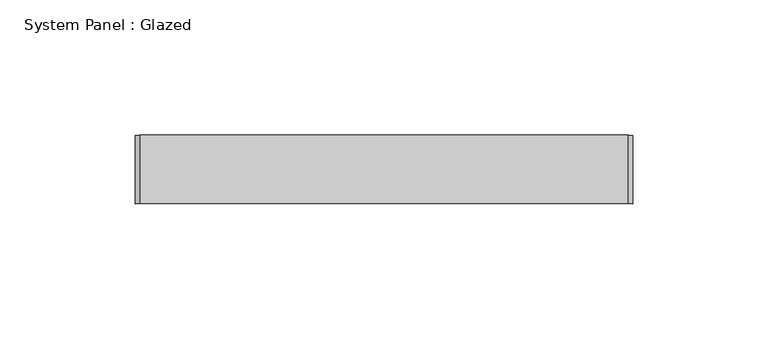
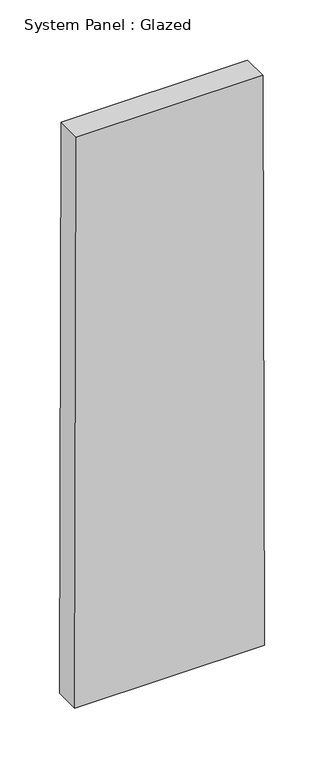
"""IFC4 building model written with IfcOpenShell, lengths in millimetres: plate geometry, System Panel : Glazed."""

from ifc_helpers import new_model, si_unit, frame, origin, place, context, project, spatial, polyline, outline, extrude, source, transform, mapped, element, save


def system_panel_glazed_bab3f386(model_context):
    return source(origin(), model_context, "Body", "SweptSolid", [
        extrude(outline(polyline([(0.0, -91.9858435), (0.0, 91.9858435), (584.1976038, 90.3478415), (584.1976038, -90.3478415), (0.0, -91.9858435)])), frame((0.0, 19.05, 0.0), z_axis=(0.0, 1.0, 0.0), x_axis=(0.0, 0.0, 1.0)), (0.0, 0.0, 1.0), 25.4),
    ])


if __name__ == "__main__":
    model = new_model("IFC4")
    model_context = context("Model", 3, world=origin())
    ifc_project = project(units=[si_unit("LENGTHUNIT", "METRE", prefix="MILLI")], contexts=[model_context])
    site = spatial("IfcSite", under=ifc_project)
    building = spatial("IfcBuilding", under=site)
    placement = place(None, origin())
    system_panel_glazed_shape = system_panel_glazed_bab3f386(model_context)
    element("IfcPlate", 1, ObjectType="System Panel : Glazed", at=placement, inside=building, context=model_context, shape_type="MappedRepresentation", body=[
        mapped(system_panel_glazed_shape, transform((0.0, 0.0, 0.0), x_axis=(1.0, 0.0, 0.0), y_axis=(0.0, 1.0, 0.0), z_axis=(0.0, 0.0, 1.0))),
    ])
    save(model, "model.ifc")
